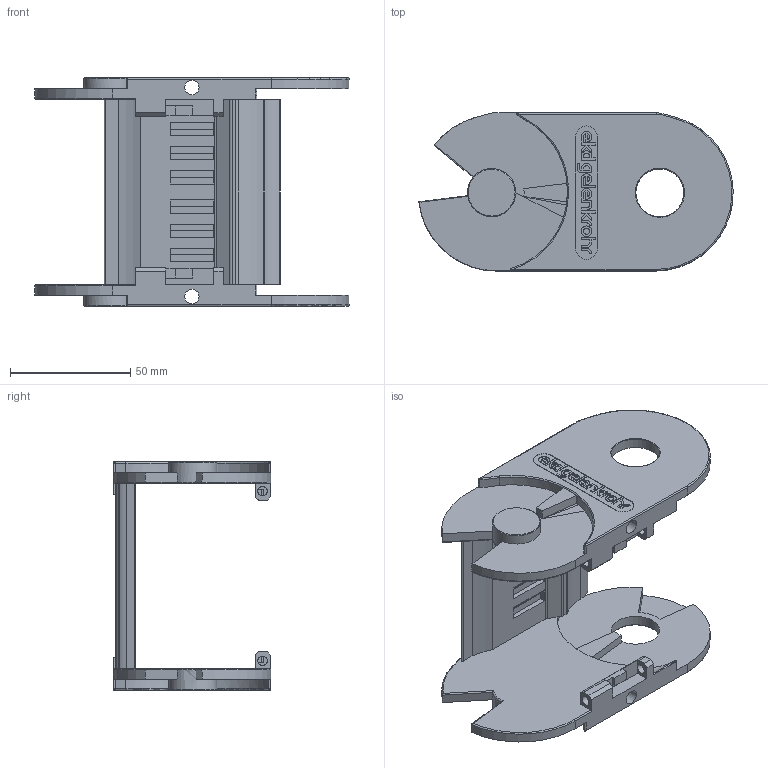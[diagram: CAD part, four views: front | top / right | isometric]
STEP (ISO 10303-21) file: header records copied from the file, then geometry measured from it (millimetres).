
FILE_DESCRIPTION((''),'2;1');
FILE_NAME('C:\Uebbing\PARAMETERKETTEN\KOLIBRI\Kol_65_095_1\Kol_65_095_5 Lasche.stp','2011-11-02T15:01:28',('Uebbing'),(''),'Autodesk Inventor 10','Autodesk Inventor 10','');
FILE_SCHEMA(('AUTOMOTIVE_DESIGN { 1 0 10303 214 1 1 1 1 }'));
Length unit declared in the file: millimetre
Products named in the file (1): Kol_65_095_5 Lasche
Bounding box: 130.76 x 65.7 x 95 mm (x, y, z)
Volume: 88309.7 mm3; surface area: 51991.1 mm2
Topology: 1 solids, 1 shells, 402 faces, 1102 edges, 707 vertices
Faces by surface type: plane 178, bspline 136, cylinder 76, torus 9, sphere 2, cone 1
Full cylindrical faces by diameter (mm): 2.514 x1, 4 x2, 4.414 x1, 6 x1, 20 x2
Entity records: 13412 total; most frequent: CARTESIAN_POINT 3557, ORIENTED_EDGE 2146, DIRECTION 1851, EDGE_CURVE 1073, VECTOR 781, LINE 781, VERTEX_POINT 698, AXIS2_PLACEMENT_3D 535
